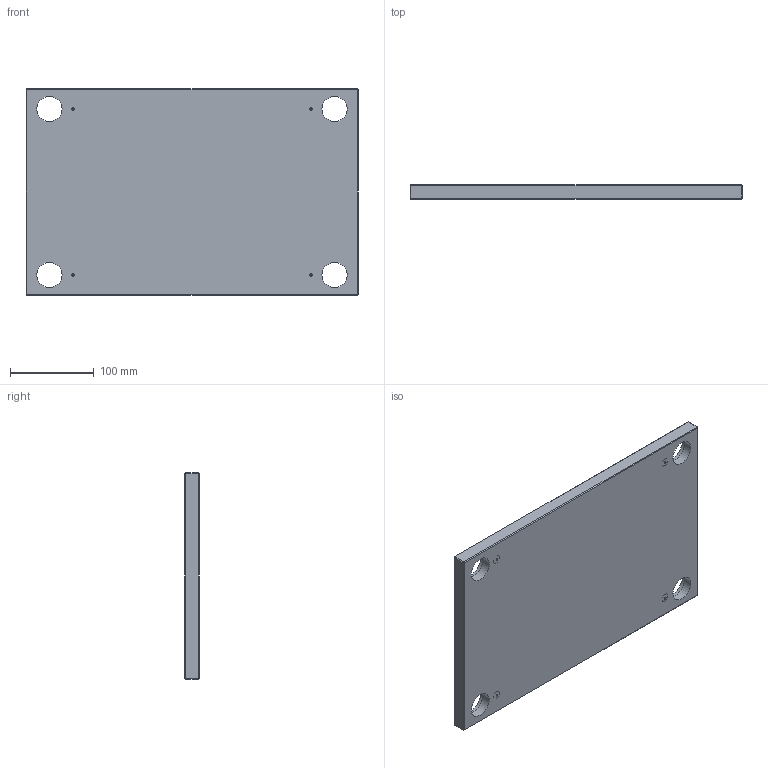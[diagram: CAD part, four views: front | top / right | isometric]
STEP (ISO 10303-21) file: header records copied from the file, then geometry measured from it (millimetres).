
FILE_DESCRIPTION(/* description */ ('STEP AP214'),/* implementation_level */ '2;1');
FILE_NAME(/* name */ 'KM0202463960172312',/* time_stamp */ '2026-07-17T13:08:07+02:00',/* author */ ('License CC BY-ND 4.0'),/* organization */ ('CADENAS'),/* preprocessor_version */ 'ST-DEVELOPER v20',/* originating_system */ 'PARTsolutions',/* authorisation */ ' ');
FILE_SCHEMA (('AUTOMOTIVE_DESIGN {1 0 10303 214 3 1 1}'));
Length unit declared in the file: millimetre
Products named in the file (1): KM0202463960172312
Bounding box: 396 x 17 x 246 mm (x, y, z)
Volume: 1593519.6 mm3; surface area: 218276.2 mm2
Topology: 1 solids, 1 shells, 42 faces, 104 edges, 68 vertices
Faces by surface type: plane 22, cylinder 12, cone 8
Full cylindrical faces by diameter (mm): 10.106 x4, 30 x4, 36 x4
Entity records: 1174 total; most frequent: DIRECTION 198, CARTESIAN_POINT 187, ORIENTED_EDGE 160, EDGE_LOOP 82, FACE_BOUND 82, EDGE_CURVE 80, AXIS2_PLACEMENT_3D 75, VERTEX_POINT 64
